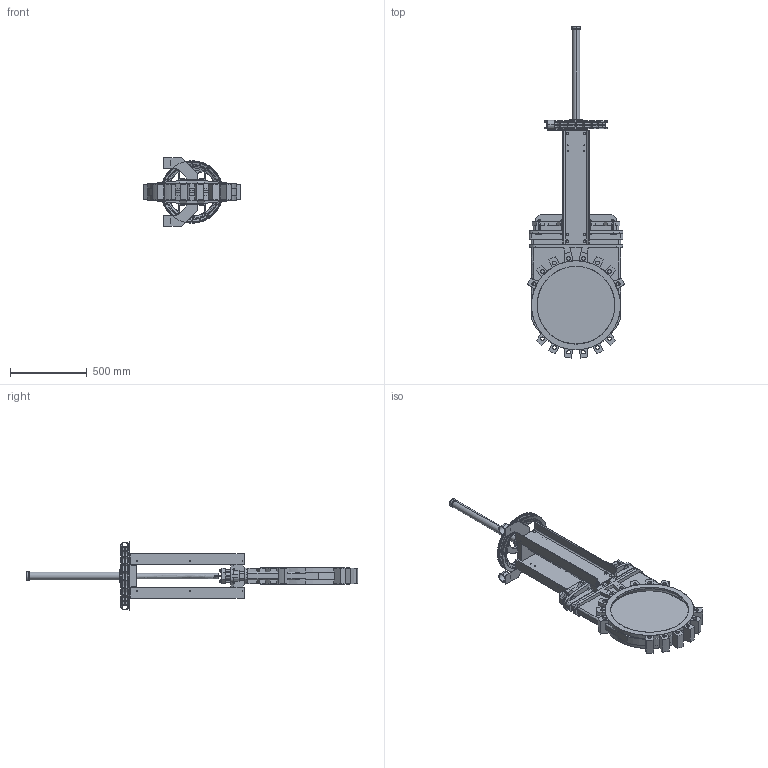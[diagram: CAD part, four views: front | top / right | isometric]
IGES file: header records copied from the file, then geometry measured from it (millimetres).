
Start section: SolidWorks IGES file using analytic representation for surfaces
Global section: file name: D:\part\3D Projects\VG-CHAIN HANDWHEEL(DN50-600)\VG C DN500\VG C DN500.IGS; native system: SolidWorks 2009; preprocessor: SolidWorks 2009; author: zhixin.zheng; date: 100129.091123; units: millimetre
Bounding box: 635.7 x 2169.54 x 450 mm (x, y, z)
Surface area: 3594210.5 mm2 (no closed solid volume)
Topology: 0 solids, 0 shells, 1596 faces, 17843 edges, 17843 vertices
Faces by surface type: bspline 1084, revolution 512
